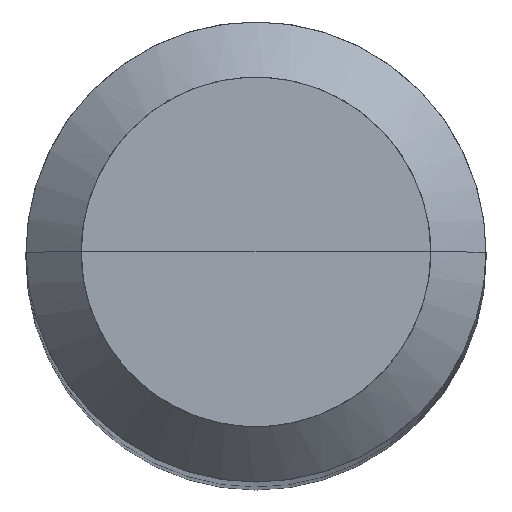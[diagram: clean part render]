
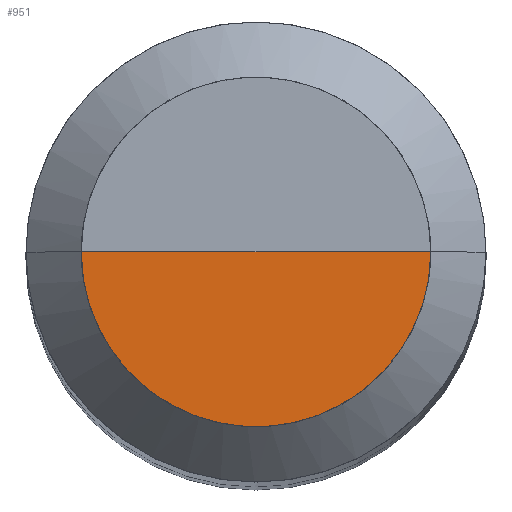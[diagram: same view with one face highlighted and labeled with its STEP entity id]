
A CAD part, top view. The second image highlights one B-rep face of the part: STEP entity #951.
In plain terms, the highlighted free-form (B-spline) face has degree [1, 2] with [2, 5] control points.
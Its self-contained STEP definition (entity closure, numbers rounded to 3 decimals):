
#683=CARTESIAN_POINT('',(1.9,0.0,30.0));
#687=CARTESIAN_POINT('',(-1.9,0.0,30.0));
#688=CARTESIAN_POINT('',(0.0,0.0,30.0));
#692=CARTESIAN_POINT('',(-1.9,-1.9,30.0));
#693=CARTESIAN_POINT('',(0.0,-1.9,30.0));
#694=CARTESIAN_POINT('',(1.9,-1.9,30.0));
#936=(
BOUNDED_SURFACE()
B_SPLINE_SURFACE(1,2,(
(#687,#692,#693,#694,#683),
(#688,#688,#688,#688,#688)
), .UNSPECIFIED.,.F.,.F.,.F.)
B_SPLINE_SURFACE_WITH_KNOTS((2,2),(3,2,3),(
0.0,1.0),(
0.0,0.5,1.0), .UNSPECIFIED.)
GEOMETRIC_REPRESENTATION_ITEM()
RATIONAL_B_SPLINE_SURFACE(((1.0,0.707,1.0,0.707,1.0),
(1.0,0.707,1.0,0.707,1.0)
))
REPRESENTATION_ITEM('')
SURFACE()
);
#937=(
BOUNDED_CURVE()
B_SPLINE_CURVE(2,(#683,#694,#693,#692,#687),.UNSPECIFIED.,.F.,.F.)
B_SPLINE_CURVE_WITH_KNOTS((3,2,3),
(0.0,0.5,1.0),.UNSPECIFIED.)
CURVE()
GEOMETRIC_REPRESENTATION_ITEM()
RATIONAL_B_SPLINE_CURVE((1.0,0.707,1.0,0.707,1.0))
REPRESENTATION_ITEM('')
);
#938=(
BOUNDED_CURVE()
B_SPLINE_CURVE(1,(#687,#688),.UNSPECIFIED.,.F.,.F.)
B_SPLINE_CURVE_WITH_KNOTS((2,2),
(0.0,1.0),.UNSPECIFIED.)
CURVE()
GEOMETRIC_REPRESENTATION_ITEM()
RATIONAL_B_SPLINE_CURVE((1.0,1.0))
REPRESENTATION_ITEM('')
);
#939=(
BOUNDED_CURVE()
B_SPLINE_CURVE(1,(#688,#683),.UNSPECIFIED.,.F.,.F.)
B_SPLINE_CURVE_WITH_KNOTS((2,2),
(0.0,1.0),.UNSPECIFIED.)
CURVE()
GEOMETRIC_REPRESENTATION_ITEM()
RATIONAL_B_SPLINE_CURVE((1.0,1.0))
REPRESENTATION_ITEM('')
);
#940=VERTEX_POINT('',#683);
#941=VERTEX_POINT('',#687);
#942=VERTEX_POINT('',#688);
#943=EDGE_CURVE('',#940,#941,#937,.T.);
#944=EDGE_CURVE('',#941,#942,#938,.T.);
#945=EDGE_CURVE('',#942,#940,#939,.T.);
#946=ORIENTED_EDGE('',*,*,#943,.T.);
#947=ORIENTED_EDGE('',*,*,#944,.T.);
#948=ORIENTED_EDGE('',*,*,#945,.T.);
#949=EDGE_LOOP('',(#946,#947,#948));
#950=FACE_OUTER_BOUND('',#949,.T.);
#951=ADVANCED_FACE('',(#950),#936,.T.);
